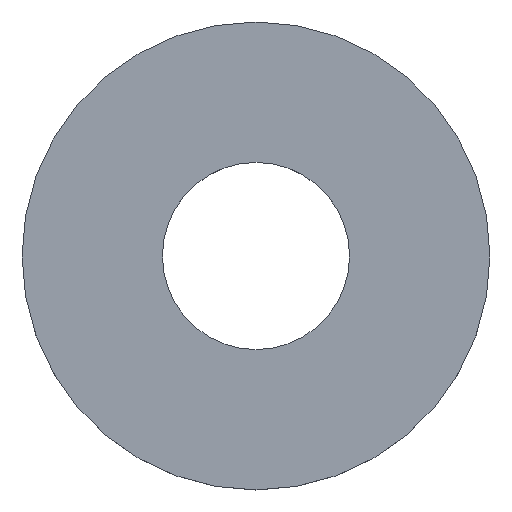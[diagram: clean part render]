
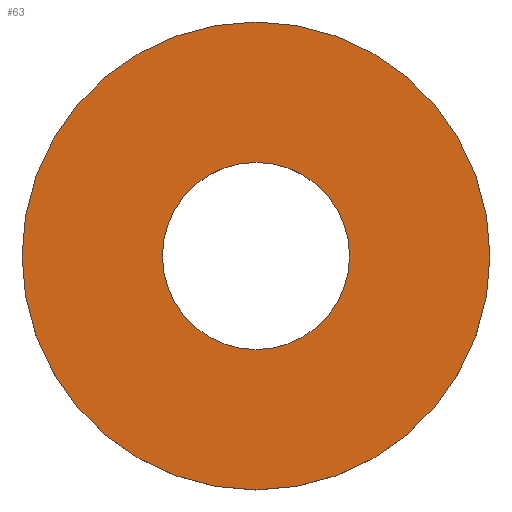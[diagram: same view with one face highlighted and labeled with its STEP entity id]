
A CAD part, top view. The second image highlights one B-rep face of the part: STEP entity #63.
In plain terms, the highlighted planar face has unit normal (0, 0, 1).
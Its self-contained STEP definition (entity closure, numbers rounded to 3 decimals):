
#15=FACE_BOUND('',#26,.T.);
#17=PLANE('',#85);
#21=FACE_OUTER_BOUND('',#25,.T.);
#25=EDGE_LOOP('',(#55));
#26=EDGE_LOOP('',(#56));
#33=CIRCLE('',#80,4.2);
#35=CIRCLE('',#83,10.5);
#37=VERTEX_POINT('',#109);
#39=VERTEX_POINT('',#115);
#41=EDGE_CURVE('',#37,#37,#33,.T.);
#44=EDGE_CURVE('',#39,#39,#35,.T.);
#55=ORIENTED_EDGE('',*,*,#44,.T.);
#56=ORIENTED_EDGE('',*,*,#41,.T.);
#63=ADVANCED_FACE('',(#21,#15),#17,.T.);
#80=AXIS2_PLACEMENT_3D('',#110,#91,#92);
#83=AXIS2_PLACEMENT_3D('',#116,#98,#99);
#85=AXIS2_PLACEMENT_3D('',#120,#103,#104);
#91=DIRECTION('center_axis',(0.,0.,-1.));
#92=DIRECTION('ref_axis',(1.,0.,0.));
#98=DIRECTION('center_axis',(0.,0.,1.));
#99=DIRECTION('ref_axis',(1.,0.,0.));
#103=DIRECTION('center_axis',(0.,0.,1.));
#104=DIRECTION('ref_axis',(1.,0.,0.));
#109=CARTESIAN_POINT('',(-4.2,0.,1.6));
#110=CARTESIAN_POINT('Origin',(0.,0.,1.6));
#115=CARTESIAN_POINT('',(-10.5,0.,1.6));
#116=CARTESIAN_POINT('Origin',(0.,0.,1.6));
#120=CARTESIAN_POINT('Origin',(0.,0.,1.6));
